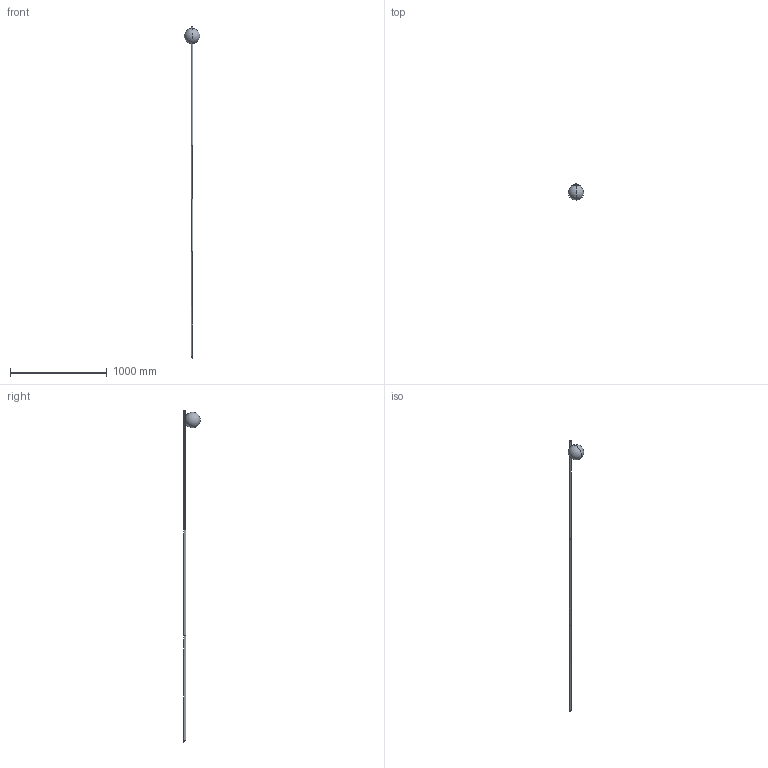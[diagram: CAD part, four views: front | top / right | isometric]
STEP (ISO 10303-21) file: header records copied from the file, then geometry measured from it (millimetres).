
FILE_DESCRIPTION((''),'2;1');
FILE_NAME('HASTAGARDEN_LUNO_SW0001','2026-02-03T17:13:54',('Piccioli'),(''),'CREO PARAMETRIC BY PTC INC, 2025010','CREO PARAMETRIC BY PTC INC, 2025010','');
FILE_SCHEMA(('CONFIG_CONTROL_DESIGN'));
Length unit declared in the file: millimetre
Products named in the file (1): HASTAGARDEN_LUNO_SW0001
Bounding box: 159.64 x 171.56 x 3440 mm (x, y, z)
Surface area: 277482.8 mm2 (no closed solid volume)
Topology: 0 solids, 7 shells, 22 faces, 81 edges, 53 vertices
Faces by surface type: cylinder 8, sphere 6, cone 4, plane 3, torus 1
Entity records: 2024 total; most frequent: CARTESIAN_POINT 1341, DIRECTION 139, ORIENTED_EDGE 112, EDGE_CURVE 79, AXIS2_PLACEMENT_3D 58, VERTEX_POINT 53, CIRCLE 36, VECTOR 23
